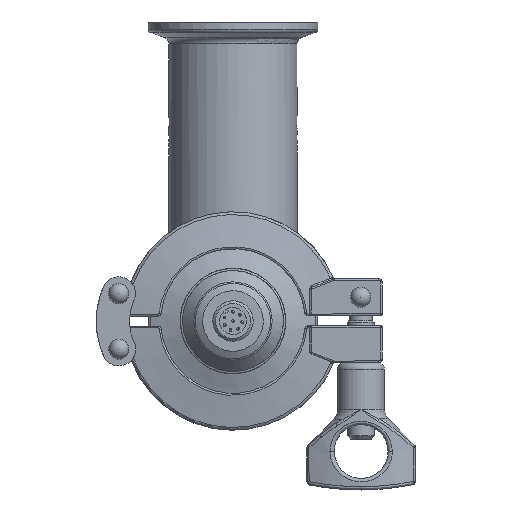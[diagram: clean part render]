
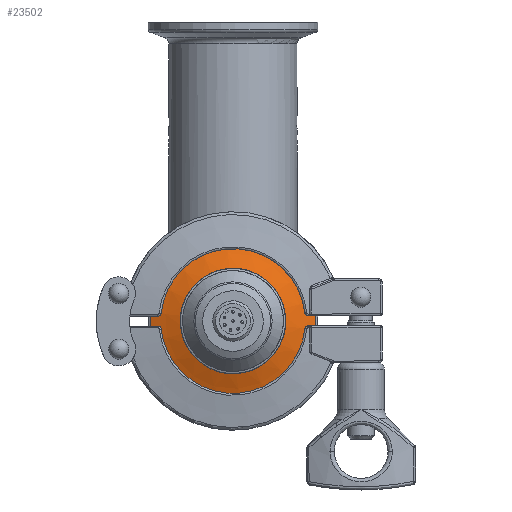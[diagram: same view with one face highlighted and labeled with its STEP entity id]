
A CAD part, front view. The second image highlights one B-rep face of the part: STEP entity #23502.
In plain terms, the highlighted conical face has half-angle 70 degrees and reference radius 24.724 mm.
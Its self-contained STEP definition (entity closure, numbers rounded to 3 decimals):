
#238=CONICAL_SURFACE('',#24709,24.724,1.222);
#4159=ORIENTED_EDGE('',*,*,#9491,.T.);
#4160=ORIENTED_EDGE('',*,*,#9490,.F.);
#9490=EDGE_CURVE('',#12167,#12167,#13914,.T.);
#9491=EDGE_CURVE('',#12168,#12168,#13915,.T.);
#12167=VERTEX_POINT('',#30612);
#12168=VERTEX_POINT('',#30616);
#13914=CIRCLE('',#24707,24.724);
#13915=CIRCLE('',#24710,15.732);
#14655=EDGE_LOOP('',(#4159));
#14656=EDGE_LOOP('',(#4160));
#16065=FACE_BOUND('',#14655,.T.);
#16066=FACE_BOUND('',#14656,.T.);
#23502=ADVANCED_FACE('',(#16065,#16066),#238,.T.);
#24707=AXIS2_PLACEMENT_3D('',#30611,#26285,#26286);
#24709=AXIS2_PLACEMENT_3D('',#30614,#26289,#26290);
#24710=AXIS2_PLACEMENT_3D('',#30615,#26291,#26292);
#26285=DIRECTION('',(0.,1.,0.));
#26286=DIRECTION('',(1.,0.,0.));
#26289=DIRECTION('',(0.,1.,0.));
#26290=DIRECTION('',(1.,0.,0.));
#26291=DIRECTION('',(0.,1.,0.));
#26292=DIRECTION('',(0.,0.,1.));
#30611=CARTESIAN_POINT('',(0.,1.903,0.));
#30612=CARTESIAN_POINT('',(24.724,1.903,0.));
#30614=CARTESIAN_POINT('',(0.,1.903,0.));
#30615=CARTESIAN_POINT('',(0.,-1.369,0.));
#30616=CARTESIAN_POINT('',(0.,-1.369,15.732));
